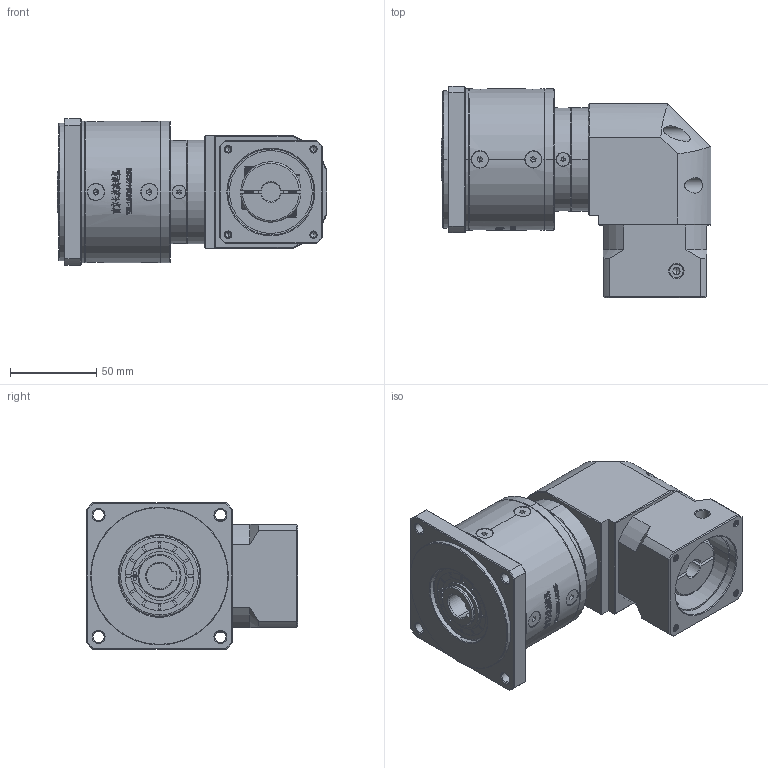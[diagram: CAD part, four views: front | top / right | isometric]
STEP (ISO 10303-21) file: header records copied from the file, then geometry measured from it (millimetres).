
FILE_DESCRIPTION (( 'STEP AP214' ), '1' );
FILE_NAME ('ZFR80-K15-L2-11-50-70-M4.step', '2022-05-08T14:57:42', ( '' ), ( 'Microsoft' ), 'SwSTEP 2.0', 'SolidWorks 2016', '' );
FILE_SCHEMA (( 'AUTOMOTIVE_DESIGN' ));
Length unit declared in the file: millimetre
Products named in the file (1): ZFR80-K15-L2-11-50-70-M4
Bounding box: 156.5 x 122.7 x 85 mm (x, y, z)
Volume: 768207.2 mm3; surface area: 101032.4 mm2
Topology: 17 solids, 18 shells, 3020 faces, 8062 edges, 5198 vertices
Faces by surface type: plane 1594, bspline 598, cylinder 433, cone 375, torus 20
Entity records: 157107 total; most frequent: CARTESIAN_POINT 53675, ORIENTED_EDGE 16036, DIRECTION 12265, EDGE_CURVE 8018, VERTEX_POINT 5198, LINE 4925, VECTOR 4925, AXIS2_PLACEMENT_3D 3670
